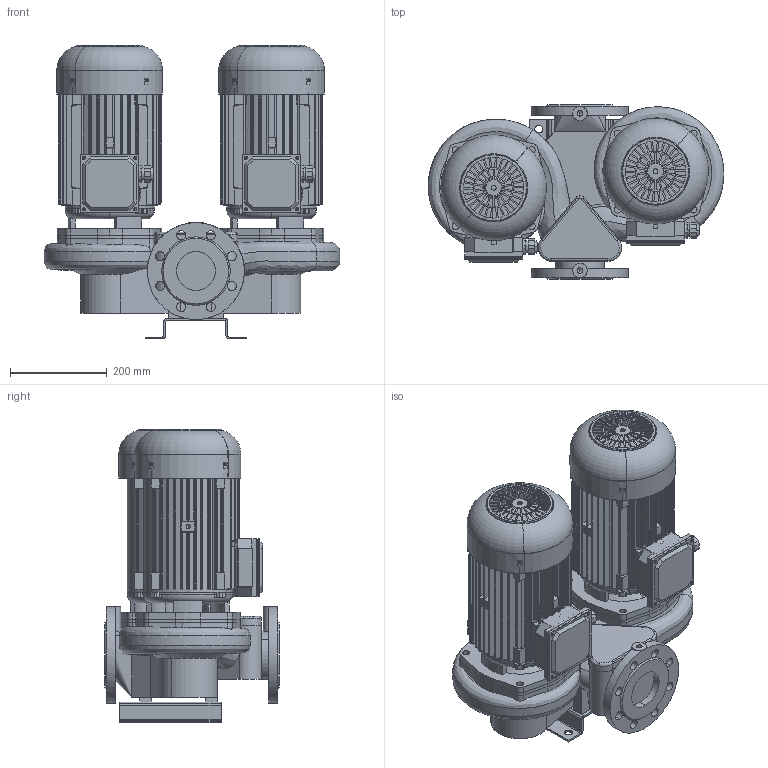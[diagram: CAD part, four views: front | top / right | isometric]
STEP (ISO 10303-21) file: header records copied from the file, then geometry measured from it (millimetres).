
FILE_DESCRIPTION(('STEP AP214'),'1');
FILE_NAME('export.stp','2018-05-30T07:53:25',(' '),(' '),'Spatial InterOp 3D',' ',' ');
FILE_SCHEMA(('AUTOMOTIVE_DESIGN { 1 0 10303 214 1 1 1 1 }'));
Length unit declared in the file: millimetre
Products named in the file (17): W_T80A2400_KP112; V_TLL65AB80A1102; V_PPT80A; V_JALKA35973; 440017; 440016; V_MKP112F19; 440015___; 440018; 440021; 480022; 480020; 480023; M25_Blind_Plug; M25_tiivisteholkk
Assembly tree (26 placements, depth 4):
  W_T80A2400_KP112
    V_TLL65AB80A1102  x2
    V_PPT80A
    V_JALKA35973
    V_MKP112F19
      440017
        440016
      440015___
      440018
      440021
      480022
      480020
      480023
      M25_Blind_Plug
      M25_tiivisteholkk
    V_MKP112F19
      440017
        440016
      440015___
      440018
      440021
      480022
      480020
      480023
      M25_Blind_Plug
      M25_tiivisteholkk
Bounding box: 609.87 x 360 x 606.2 mm (x, y, z)
Volume: 23601773 mm3; surface area: 5089613.2 mm2
Topology: 22 solids, 23 shells, 3275 faces, 9199 edges, 6044 vertices
Faces by surface type: cylinder 1629, plane 1151, cone 240, torus 192, bspline 63
Entity records: 72608 total; most frequent: CARTESIAN_POINT 21203, ORIENTED_EDGE 9996, DIRECTION 9592, EDGE_CURVE 4998, AXIS2_PLACEMENT_3D 3640, VERTEX_POINT 3288, LINE 2312, VECTOR 2312
